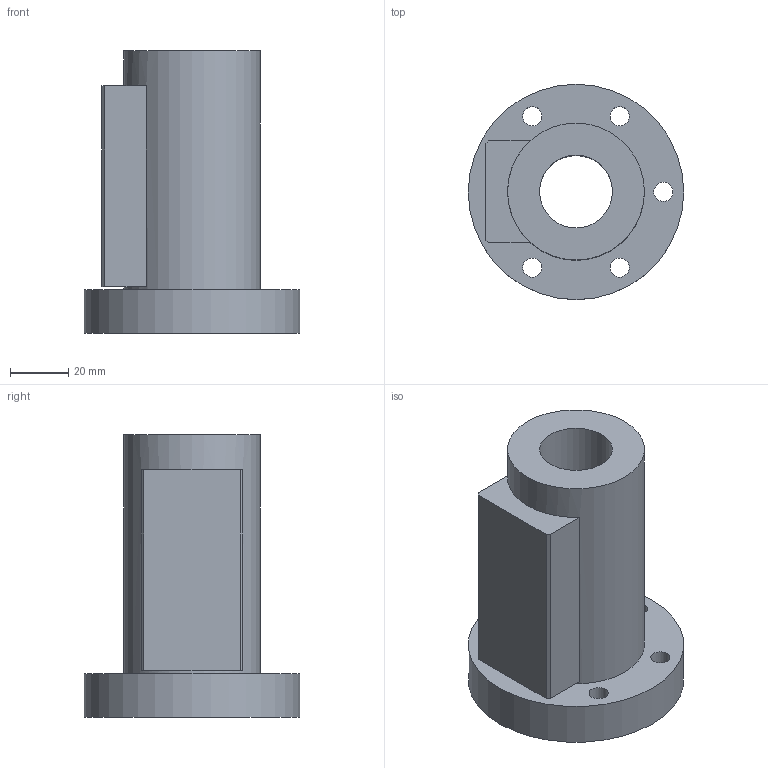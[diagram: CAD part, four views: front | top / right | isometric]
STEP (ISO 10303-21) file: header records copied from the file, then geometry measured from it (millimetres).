
FILE_DESCRIPTION(/* description */ (''),/* implementation_level */ '2;1');
FILE_NAME(/* name */ '25-10B2',/* time_stamp */ '2006-07-31T10:03:08+08:00',/* author */ (''),/* organization */ (''),/* preprocessor_version */ 'ST-DEVELOPER v9',/* originating_system */ 'UGS - NX 4.0',/* authorisation */ '');
FILE_SCHEMA (('CONFIG_CONTROL_DESIGN'));
Length unit declared in the file: millimetre
Products named in the file (1): 25-10B2
Bounding box: 74 x 74 x 97 mm (x, y, z)
Volume: 178467.2 mm3; surface area: 34910 mm2
Topology: 1 solids, 1 shells, 28 faces, 61 edges, 42 vertices
Faces by surface type: plane 15, cylinder 13
Full cylindrical faces by diameter (mm): 6.6 x5, 11 x5, 25 x1, 47 x1, 74 x1
Entity records: 794 total; most frequent: DIRECTION 130, CARTESIAN_POINT 111, ORIENTED_EDGE 88, EDGE_LOOP 60, AXIS2_PLACEMENT_3D 57, FACE_BOUND 45, EDGE_CURVE 44, VERTEX_POINT 38
